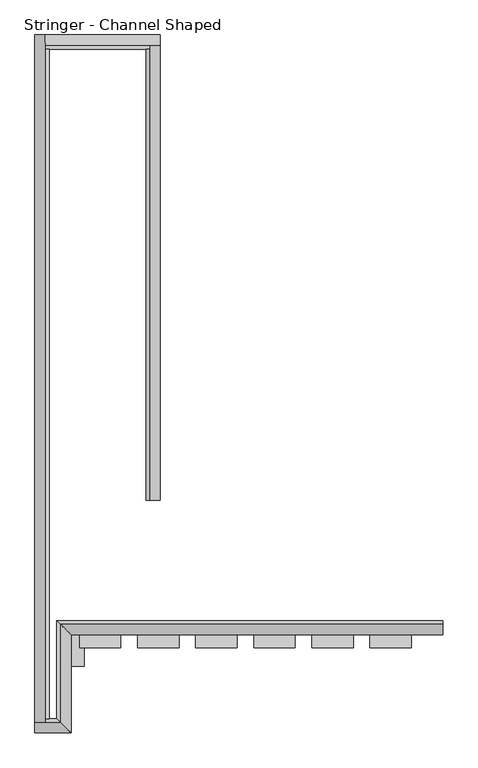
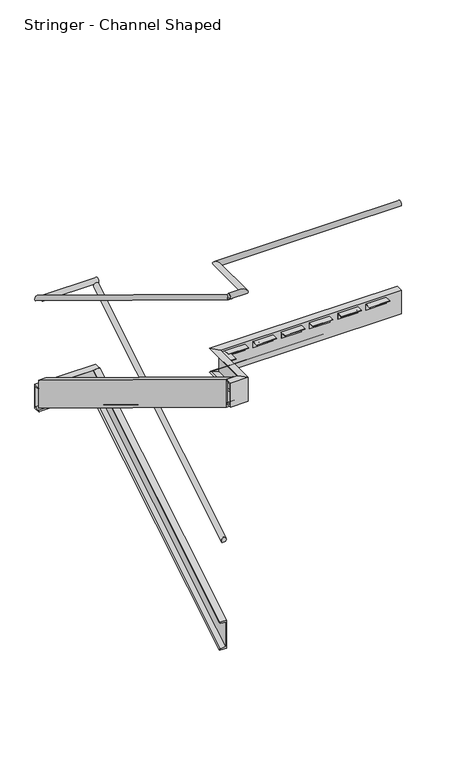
"""IFC4 building model written with IfcOpenShell, lengths in millimetres: railing geometry, Stringer - Channel Shaped."""

from ifc_helpers import new_model, si_unit, frame, origin, place, context, project, spatial, polyline, circle_curve, ellipse_curve, outline, extrude, source, transform, mapped, element, save
from ifc_brep_helpers import plane_surface, cylinder_surface, advanced_brep


def stringer_channel_shaped_25d5b561(model_context):
    return source(origin(), model_context, "Body", "SolidModel", [
        advanced_brep(
        [(-34606.7311, -2707.6103492, 1036.3824615), (-34640.073347, -2707.6103492, 1036.3824615), (-34606.7311, -472.4103492, 2398.7900805), (-34640.073347, -472.4103492, 2398.7900805)],
        [
            (0, 1, ellipse_curve(frame((-34623.4022235, -2707.6103492, 1058.8250107), z_axis=(0.0, -1.0, 0.0), x_axis=(0.0, 0.0, -1.0)), 29.7464179, 25.4)),
            (1, 0),
            (2, 3),
            (3, 2, ellipse_curve(frame((-34623.4022235, -472.4103492, 2421.2326298), z_axis=(0.0, 1.0, 0.0), x_axis=(0.0, 0.0, -1.0)), 29.7464179, 25.4)),
            (0, 2),
            (3, 1),
        ],
        [
            plane_surface(frame((-34623.4022235, -2707.6103492, 1088.5714286), z_axis=(0.0, -1.0, 0.0), x_axis=(0.0, 0.0, 1.0))),
            plane_surface(frame((-34623.4022235, -472.4103492, 2450.9790476), z_axis=(0.0, 1.0, 0.0), x_axis=(0.0, 0.0, 1.0))),
            cylinder_surface(frame((-34623.4022235, -2694.3905934, 1066.8827667), z_axis=(0.0, -0.8538843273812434, -0.5204628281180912), x_axis=(-1.0, 0.0, 0.0)), 25.4),
            plane_surface(frame((-34640.073347, -2707.6103492, 1036.3824615), z_axis=(0.0, 0.5204628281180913, -0.8538843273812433), x_axis=(0.0, 0.8538843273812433, 0.5204628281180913))),
        ],
        [
            (0, [[1, 2]]),
            (1, [[3, 4]]),
            (2, [[-1, 5, -4, 6]]),
            (3, [[-2, -6, -3, -5]]),
        ],
    ),
        advanced_brep(
        [(-34598.0022235, -430.3392257, 2437.3795161), (-34598.0022235, -463.6814727, 2437.3795161), (-35163.578433, -430.3392257, 2437.3795161), (-35163.578433, -463.6814727, 2437.3795161)],
        [
            (0, 1, circle_curve(frame((-34598.0022235, -447.0103492, 2456.5428571), z_axis=(1.0, 0.0, 0.0), x_axis=(0.0, -1.0, 0.0)), 25.4)),
            (1, 0),
            (2, 3),
            (3, 2, circle_curve(frame((-35163.578433, -447.0103492, 2456.5428571), z_axis=(-1.0, 0.0, 0.0), x_axis=(0.0, -1.0, 0.0)), 25.4)),
            (0, 2),
            (3, 1),
        ],
        [
            plane_surface(frame((-34598.0022235, -447.0103492, 2481.9428571), z_axis=(1.0, 0.0, 0.0), x_axis=(0.0, -1.0, 0.0))),
            plane_surface(frame((-35163.578433, -447.0103492, 2481.9428571), z_axis=(-1.0, 0.0, 0.0), x_axis=(0.0, -1.0, 0.0))),
            cylinder_surface(frame((-34598.0022235, -447.0103492, 2456.5428571), z_axis=(1.0, 0.0, 0.0), x_axis=(0.0, -1.0, 0.0)), 25.4),
            plane_surface(frame((-34598.0022235, -463.6814727, 2437.3795161), z_axis=(0.0, 0.0, -1.0), x_axis=(-1.0, 0.0, 0.0))),
        ],
        [
            (0, [[1, 2]]),
            (1, [[3, 4]]),
            (2, [[-1, 5, -4, 6]]),
            (3, [[-2, -6, -3, -5]]),
        ],
    ),
        advanced_brep(
        [(-35205.6495565, -421.6103492, 2429.75389), (-35172.3073095, -421.6103492, 2429.75389), (-35205.6495565, -3799.8103492, 4488.8472234), (-35172.3073095, -3799.8103492, 4488.8472234)],
        [
            (0, 1, ellipse_curve(frame((-35188.978433, -421.6103492, 2452.1964393), z_axis=(0.0, 1.0, 0.0), x_axis=(0.0, 0.0, -1.0)), 29.7464179, 25.4)),
            (1, 0),
            (2, 3),
            (3, 2, ellipse_curve(frame((-35188.978433, -3799.8103492, 4511.2897726), z_axis=(0.0, -1.0, 0.0), x_axis=(0.0, 0.0, -1.0)), 29.7464179, 25.4)),
            (0, 2),
            (3, 1),
        ],
        [
            plane_surface(frame((-35188.978433, -421.6103492, 2481.9428571), z_axis=(0.0, 1.0, 0.0), x_axis=(0.0, 0.0, -1.0))),
            plane_surface(frame((-35188.978433, -3799.8103492, 4541.0361905), z_axis=(0.0, -1.0, 0.0), x_axis=(0.0, 0.0, -1.0))),
            cylinder_surface(frame((-35188.978433, -434.830105, 2460.2541952), z_axis=(0.0, 0.8538843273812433, -0.5204628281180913), x_axis=(1.0, 0.0, 0.0)), 25.4),
            plane_surface(frame((-35172.3073095, -421.6103492, 2429.75389), z_axis=(0.0, -0.5204628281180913, -0.8538843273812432), x_axis=(0.0, -0.8538843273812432, 0.5204628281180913))),
        ],
        [
            (0, [[1, 2]]),
            (1, [[3, 4]]),
            (2, [[-1, 5, -4, 6]]),
            (3, [[-2, -6, -3, -5]]),
        ],
    ),
        advanced_brep(
        [(-34598.0022235, -2707.6103492, 192.2356071), (-34667.5054435, -2707.6103492, 192.2356071), (-34656.5238235, -2707.6103492, 180.1670516), (-34607.5475223, -2707.6103492, 170.9289313), (-34607.5475223, -2707.6103492, -83.0210129), (-34656.5238235, -2707.6103492, -92.2591332), (-34667.6566515, -2707.6103492, -105.2285714), (-34598.0022235, -2707.6103492, -105.2285714), (-34598.0022235, -491.2647772, 1543.1510034), (-34598.0022235, -491.2647772, 1245.6868248), (-34667.6566515, -491.2647772, 1245.6868248), (-34656.5238235, -491.2647772, 1258.656263), (-34607.5475223, -491.2647772, 1267.8943833), (-34607.5475223, -491.2647772, 1521.8443276), (-34656.5238235, -491.2647772, 1531.0824479), (-34667.5054435, -491.2647772, 1543.1510034)],
        [
            (0, 1),
            (1, 2, ellipse_curve(frame((-34654.3842898, -2707.6103492, 195.7239643), z_axis=(0.0, -1.0, 0.0), x_axis=(0.0, 0.0, -1.0)), 15.7574047, 13.4550009)),
            (2, 3),
            (3, 4),
            (4, 5),
            (5, 6, ellipse_curve(frame((-34654.3842898, -2707.6103492, -107.8160459), z_axis=(0.0, -1.0, 0.0), x_axis=(0.0, 0.0, -1.0)), 15.7574047, 13.4550009)),
            (6, 7),
            (7, 0),
            (8, 9),
            (9, 10),
            (10, 11, ellipse_curve(frame((-34654.3842898, -491.2647772, 1243.0993504), z_axis=(0.0, 1.0, 0.0), x_axis=(0.0, 0.0, -1.0)), 15.7574047, 13.4550009)),
            (11, 12),
            (12, 13),
            (13, 14),
            (14, 15, ellipse_curve(frame((-34654.3842898, -491.2647772, 1546.6393605), z_axis=(0.0, 1.0, 0.0), x_axis=(0.0, 0.0, -1.0)), 15.7574047, 13.4550009)),
            (15, 8),
            (0, 8),
            (15, 1),
            (14, 2),
            (13, 3),
            (12, 4),
            (11, 5),
            (10, 6),
            (9, 7),
        ],
        [
            plane_surface(frame((-34598.0022235, -2707.6103492, -105.2285714), z_axis=(0.0, -1.0, 0.0), x_axis=(0.0, 0.0, 1.0))),
            plane_surface(frame((-34598.0022235, -491.2647772, 1245.6868248), z_axis=(0.0, 1.0, 0.0), x_axis=(0.0, 0.0, 1.0))),
            plane_surface(frame((-34598.0022235, -2707.6103492, 192.2356071), z_axis=(0.0, -0.5204628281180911, 0.8538843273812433), x_axis=(0.0, 0.8538843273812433, 0.5204628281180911))),
            cylinder_surface(frame((-34654.3842898, -2841.358186, 114.2014733), z_axis=(0.0, -0.8538843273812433, -0.5204628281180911), x_axis=(-1.0, 0.0, 0.0)), 13.4550009),
            plane_surface(frame((-34656.5238235, -2707.6103492, 180.1670516), z_axis=(-0.15901401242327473, 0.5138406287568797, -0.8430197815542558), x_axis=(0.0, 0.8538843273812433, 0.5204628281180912))),
            plane_surface(frame((-34607.5475223, -2707.6103492, 170.9289313), z_axis=(-1.0, 0.0, 0.0), x_axis=(0.0, 0.8538843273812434, 0.5204628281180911))),
            plane_surface(frame((-34607.5475223, -2707.6103492, -83.0210129), z_axis=(-0.15901401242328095, -0.5138406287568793, 0.8430197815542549), x_axis=(0.0, 0.8538843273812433, 0.5204628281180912))),
            cylinder_surface(frame((-34654.3842898, -2706.4604366, -107.1151468), z_axis=(0.0, -0.8538843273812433, -0.5204628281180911), x_axis=(-1.0, 0.0, 0.0)), 13.4550009),
            plane_surface(frame((-34667.6566515, -2707.6103492, -105.2285714), z_axis=(0.0, 0.5204628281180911, -0.8538843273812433), x_axis=(0.0, 0.8538843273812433, 0.5204628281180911))),
            plane_surface(frame((-34598.0022235, -2707.6103492, -105.2285714), z_axis=(1.0, 0.0, 0.0), x_axis=(0.0, 0.8538843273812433, 0.5204628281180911))),
        ],
        [
            (0, [[1, 2, 3, 4, 5, 6, 7, 8]]),
            (1, [[9, 10, 11, 12, 13, 14, 15, 16]]),
            (2, [[-1, 17, -16, 18]]),
            (3, [[-2, -18, -15, 19]]),
            (4, [[-3, -19, -14, 20]]),
            (5, [[-4, -20, -13, 21]]),
            (6, [[-5, -21, -12, 22]]),
            (7, [[-6, -22, -11, 23]]),
            (8, [[-7, -23, -10, 24]]),
            (9, [[-8, -24, -9, -17]]),
        ],
    ),
        advanced_brep(
        [(-34598.0022235, -421.6103492, 1542.1428571), (-34598.0022235, -491.1135692, 1542.1428571), (-34598.0022235, -480.1319492, 1531.8377068), (-34598.0022235, -431.155648, 1523.9494206), (-34598.0022235, -431.155648, 1307.1055433), (-34598.0022235, -480.1319492, 1299.2172571), (-34598.0022235, -491.2647772, 1288.1428571), (-34598.0022235, -421.6103492, 1288.1428571), (-35214.378433, -421.6103492, 1542.1428571), (-35214.378433, -421.6103492, 1288.1428571), (-35214.378433, -491.2647772, 1288.1428571), (-35214.378433, -480.1319492, 1299.2172571), (-35214.378433, -431.155648, 1307.1055433), (-35214.378433, -431.155648, 1523.9494206), (-35214.378433, -480.1319492, 1531.8377068), (-35214.378433, -491.1135692, 1542.1428571)],
        [
            (0, 1),
            (1, 2, circle_curve(frame((-34598.0022235, -477.9924155, 1545.1215107), z_axis=(1.0, 0.0, 0.0), x_axis=(0.0, -1.0, 0.0)), 13.4550009)),
            (2, 3),
            (3, 4),
            (4, 5),
            (5, 6, circle_curve(frame((-34598.0022235, -477.9924155, 1285.9334533), z_axis=(1.0, 0.0, 0.0), x_axis=(0.0, -1.0, 0.0)), 13.4550009)),
            (6, 7),
            (7, 0),
            (8, 9),
            (9, 10),
            (10, 11, circle_curve(frame((-35214.378433, -477.9924155, 1285.9334533), z_axis=(-1.0, 0.0, 0.0), x_axis=(0.0, -1.0, 0.0)), 13.4550009)),
            (11, 12),
            (12, 13),
            (13, 14),
            (14, 15, circle_curve(frame((-35214.378433, -477.9924155, 1545.1215107), z_axis=(-1.0, 0.0, 0.0), x_axis=(0.0, -1.0, 0.0)), 13.4550009)),
            (15, 8),
            (0, 8),
            (15, 1),
            (14, 2),
            (13, 3),
            (12, 4),
            (11, 5),
            (10, 6),
            (9, 7),
        ],
        [
            plane_surface(frame((-34598.0022235, -421.6103492, 1288.1428571), z_axis=(1.0, 0.0, 0.0), x_axis=(0.0, -1.0, 0.0))),
            plane_surface(frame((-35214.378433, -421.6103492, 1288.1428571), z_axis=(-1.0, 0.0, 0.0), x_axis=(0.0, -1.0, 0.0))),
            plane_surface(frame((-34598.0022235, -421.6103492, 1542.1428571), z_axis=(0.0, 0.0, 1.0), x_axis=(-1.0, 0.0, 0.0))),
            cylinder_surface(frame((-34598.0022235, -477.9924155, 1545.1215107), z_axis=(1.0, 0.0, 0.0), x_axis=(0.0, -1.0, 0.0)), 13.4550009),
            plane_surface(frame((-34598.0022235, -480.1319492, 1531.8377068), z_axis=(0.0, -0.15901401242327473, -0.9872763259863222), x_axis=(-1.0, 0.0, 0.0))),
            plane_surface(frame((-34598.0022235, -431.155648, 1523.9494206), z_axis=(0.0, -1.0, 0.0), x_axis=(-1.0, 0.0, 0.0))),
            plane_surface(frame((-34598.0022235, -431.155648, 1307.1055433), z_axis=(0.0, -0.15901401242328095, 0.9872763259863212), x_axis=(-1.0, 0.0, 0.0))),
            cylinder_surface(frame((-34598.0022235, -477.9924155, 1285.9334533), z_axis=(1.0, 0.0, 0.0), x_axis=(0.0, -1.0, 0.0)), 13.4550009),
            plane_surface(frame((-34598.0022235, -491.2647772, 1288.1428571), z_axis=(0.0, 0.0, -1.0), x_axis=(-1.0, 0.0, 0.0))),
            plane_surface(frame((-34598.0022235, -421.6103492, 1288.1428571), z_axis=(0.0, 1.0, 0.0), x_axis=(-1.0, 0.0, 0.0))),
        ],
        [
            (0, [[1, 2, 3, 4, 5, 6, 7, 8]]),
            (1, [[9, 10, 11, 12, 13, 14, 15, 16]]),
            (2, [[-1, 17, -16, 18]]),
            (3, [[-2, -18, -15, 19]]),
            (4, [[-3, -19, -14, 20]]),
            (5, [[-4, -20, -13, 21]]),
            (6, [[-5, -21, -12, 22]]),
            (7, [[-6, -22, -11, 23]]),
            (8, [[-7, -23, -10, 24]]),
            (9, [[-8, -24, -9, -17]]),
        ],
    ),
        advanced_brep(
        [(-35214.378433, -491.2647772, 1628.063068), (-35144.8752131, -491.2647772, 1628.063068), (-35155.856833, -491.2647772, 1615.9945125), (-35204.8331342, -491.2647772, 1606.7563922), (-35204.8331342, -491.2647772, 1352.8064479), (-35155.856833, -491.2647772, 1343.5683276), (-35144.724005, -491.2647772, 1330.5988894), (-35214.378433, -491.2647772, 1330.5988894), (-35214.378433, -3780.9559212, 3633.2081462), (-35214.378433, -3780.9559212, 3335.7439677), (-35144.724005, -3780.9559212, 3335.7439677), (-35155.856833, -3780.9559212, 3348.7134059), (-35204.8331342, -3780.9559212, 3357.9515262), (-35204.8331342, -3780.9559212, 3611.9014705), (-35155.856833, -3780.9559212, 3621.1395908), (-35144.8752131, -3780.9559212, 3633.2081462)],
        [
            (0, 1),
            (1, 2, ellipse_curve(frame((-35157.9963667, -491.2647772, 1631.5514251), z_axis=(0.0, 1.0, 0.0), x_axis=(0.0, 0.0, -1.0)), 15.7574047, 13.4550009)),
            (2, 3),
            (3, 4),
            (4, 5),
            (5, 6, ellipse_curve(frame((-35157.9963667, -491.2647772, 1328.011415), z_axis=(0.0, 1.0, 0.0), x_axis=(0.0, 0.0, -1.0)), 15.7574047, 13.4550009)),
            (6, 7),
            (7, 0),
            (8, 9),
            (9, 10),
            (10, 11, ellipse_curve(frame((-35157.9963667, -3780.9559212, 3333.1564933), z_axis=(0.0, -1.0, 0.0), x_axis=(0.0, 0.0, -1.0)), 15.7574047, 13.4550009)),
            (11, 12),
            (12, 13),
            (13, 14),
            (14, 15, ellipse_curve(frame((-35157.9963667, -3780.9559212, 3636.6965034), z_axis=(0.0, -1.0, 0.0), x_axis=(0.0, 0.0, -1.0)), 15.7574047, 13.4550009)),
            (15, 8),
            (0, 8),
            (15, 1),
            (14, 2),
            (13, 3),
            (12, 4),
            (11, 5),
            (10, 6),
            (9, 7),
        ],
        [
            plane_surface(frame((-35214.378433, -491.2647772, 1330.5988894), z_axis=(0.0, 1.0, 0.0), x_axis=(0.0, 0.0, -1.0))),
            plane_surface(frame((-35214.378433, -3780.9559212, 3335.7439677), z_axis=(0.0, -1.0, 0.0), x_axis=(0.0, 0.0, -1.0))),
            plane_surface(frame((-35214.378433, -491.2647772, 1628.063068), z_axis=(0.0, 0.5204628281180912, 0.8538843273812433), x_axis=(0.0, -0.8538843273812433, 0.5204628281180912))),
            cylinder_surface(frame((-35157.9963667, -357.5169404, 1550.0289342), z_axis=(0.0, 0.8538843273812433, -0.5204628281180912), x_axis=(1.0, 0.0, 0.0)), 13.4550009),
            plane_surface(frame((-35155.856833, -491.2647772, 1615.9945125), z_axis=(0.15901401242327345, -0.5138406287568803, -0.8430197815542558), x_axis=(0.0, -0.8538843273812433, 0.5204628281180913))),
            plane_surface(frame((-35204.8331342, -491.2647772, 1606.7563922), z_axis=(1.0, 0.0, 0.0), x_axis=(0.0, -0.8538843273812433, 0.5204628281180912))),
            plane_surface(frame((-35204.8331342, -491.2647772, 1352.8064479), z_axis=(0.15901401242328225, 0.5138406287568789, 0.843019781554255), x_axis=(0.0, -0.8538843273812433, 0.5204628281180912))),
            cylinder_surface(frame((-35157.9963667, -492.4146898, 1328.7123141), z_axis=(0.0, 0.8538843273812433, -0.5204628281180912), x_axis=(1.0, 0.0, 0.0)), 13.4550009),
            plane_surface(frame((-35144.724005, -491.2647772, 1330.5988894), z_axis=(0.0, -0.5204628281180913, -0.8538843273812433), x_axis=(0.0, -0.8538843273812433, 0.5204628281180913))),
            plane_surface(frame((-35214.378433, -491.2647772, 1330.5988894), z_axis=(-1.0, 0.0, 0.0), x_axis=(0.0, -0.8538843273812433, 0.5204628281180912))),
        ],
        [
            (0, [[1, 2, 3, 4, 5, 6, 7, 8]]),
            (1, [[9, 10, 11, 12, 13, 14, 15, 16]]),
            (2, [[-1, 17, -16, 18]]),
            (3, [[-2, -18, -15, 19]]),
            (4, [[-3, -19, -14, 20]]),
            (5, [[-4, -20, -13, 21]]),
            (6, [[-5, -21, -12, 22]]),
            (7, [[-6, -22, -11, 23]]),
            (8, [[-7, -23, -10, 24]]),
            (9, [[-8, -24, -9, -17]]),
        ],
    ),
        advanced_brep(
        [(-35214.378433, -3841.8814727, 4527.4366589), (-35214.378433, -3808.5392257, 4527.4366589), (-35045.3073095, -3841.8814727, 4527.4366589), (-35078.6495565, -3808.5392257, 4527.4366589), (-35045.3073095, -3359.2814727, 4527.4366589), (-35078.6495565, -3325.9392257, 4527.4366589), (-33207.4142212, -3359.2814727, 4527.4366589), (-33207.4142212, -3325.9392257, 4527.4366589)],
        [
            (0, 1, circle_curve(frame((-35214.378433, -3825.2103492, 4546.6), z_axis=(-1.0, 0.0, 0.0), x_axis=(0.0, 1.0, 0.0)), 25.4)),
            (1, 0),
            (0, 2),
            (2, 3, ellipse_curve(frame((-35061.978433, -3825.2103492, 4546.6), z_axis=(-0.7071067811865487, -0.7071067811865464, 0.0), x_axis=(-0.7071067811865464, 0.7071067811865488, 0.0)), 35.9210245, 25.4)),
            (3, 1),
            (3, 2),
            (2, 4),
            (4, 5, ellipse_curve(frame((-35061.978433, -3342.6103492, 4546.6), z_axis=(-0.7071067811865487, -0.7071067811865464, 0.0), x_axis=(0.7071067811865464, -0.7071067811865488, 0.0)), 35.9210245, 25.4)),
            (5, 3),
            (5, 4),
            (6, 7),
            (7, 6, circle_curve(frame((-33207.4142212, -3342.6103492, 4546.6), z_axis=(1.0, 0.0, 0.0), x_axis=(0.0, 1.0, 0.0)), 25.4)),
            (4, 6),
            (7, 5),
        ],
        [
            plane_surface(frame((-35214.378433, -3825.2103492, 4572.0), z_axis=(-1.0, 0.0, 0.0), x_axis=(0.0, 1.0, 0.0))),
            cylinder_surface(frame((-35214.378433, -3825.2103492, 4546.6), z_axis=(-1.0, 0.0, 0.0), x_axis=(0.0, 1.0, 0.0)), 25.4),
            plane_surface(frame((-35214.378433, -3808.5392257, 4527.4366589), z_axis=(0.0, 0.0, -1.0), x_axis=(1.0, 0.0, 0.0))),
            cylinder_surface(frame((-35061.978433, -3825.2103492, 4546.6), z_axis=(0.0, -1.0, 0.0), x_axis=(-1.0, 0.0, 0.0)), 25.4),
            plane_surface(frame((-35078.6495565, -3808.5392257, 4527.4366589), z_axis=(0.0, 0.0, -1.0), x_axis=(0.0, 1.0, 0.0))),
            plane_surface(frame((-33207.4142212, -3342.6103492, 4572.0), z_axis=(1.0, 0.0, 0.0), x_axis=(0.0, 1.0, 0.0))),
            cylinder_surface(frame((-35061.978433, -3342.6103492, 4546.6), z_axis=(-1.0, 0.0, 0.0), x_axis=(0.0, 1.0, 0.0)), 25.4),
            plane_surface(frame((-35078.6495565, -3325.9392257, 4527.4366589), z_axis=(0.0, 0.0, -1.0), x_axis=(1.0, 0.0, 0.0))),
        ],
        [
            (0, [[1, 2]]),
            (1, [[-1, 3, 4, 5]]),
            (2, [[-2, -5, 6, -3]]),
            (3, [[-4, 7, 8, 9]]),
            (4, [[-6, -9, 10, -7]]),
            (5, [[11, 12]]),
            (6, [[-8, 13, -12, 14]]),
            (7, [[-10, -14, -11, -13]]),
        ],
    ),
        advanced_brep(
        [(-35214.378433, -3850.6103492, 3632.2), (-35214.378433, -3781.1071292, 3632.2), (-35214.378433, -3792.0887492, 3621.8948496), (-35214.378433, -3841.0650504, 3614.0065635), (-35214.378433, -3841.0650504, 3397.1626861), (-35214.378433, -3792.0887492, 3389.2744), (-35214.378433, -3780.9559212, 3378.2), (-35214.378433, -3850.6103492, 3378.2), (-35036.578433, -3850.6103492, 3632.2), (-35106.081653, -3781.1071292, 3632.2), (-35095.100033, -3792.0887492, 3621.8948496), (-35046.1237319, -3841.0650504, 3614.0065635), (-35046.1237319, -3841.0650504, 3397.1626861), (-35095.100033, -3792.0887492, 3389.2744), (-35106.232861, -3780.9559212, 3378.2), (-35036.578433, -3850.6103492, 3378.2), (-35036.578433, -3368.0103492, 3632.2), (-35106.081653, -3298.5071292, 3632.2), (-35095.100033, -3309.4887492, 3621.8948496), (-35046.1237319, -3358.4650504, 3614.0065635), (-35046.1237319, -3358.4650504, 3397.1626861), (-35095.100033, -3309.4887492, 3389.2744), (-35106.232861, -3298.3559212, 3378.2), (-35036.578433, -3368.0103492, 3378.2), (-33207.4142212, -3368.0103492, 3632.2), (-33207.4142212, -3368.0103492, 3378.2), (-33207.4142212, -3298.3559212, 3378.2), (-33207.4142212, -3309.4887492, 3389.2744), (-33207.4142212, -3358.4650504, 3397.1626861), (-33207.4142212, -3358.4650504, 3614.0065635), (-33207.4142212, -3309.4887492, 3621.8948496), (-33207.4142212, -3298.5071292, 3632.2)],
        [
            (0, 1),
            (1, 2, circle_curve(frame((-35214.378433, -3794.2282829, 3635.1786535), z_axis=(-1.0, 0.0, 0.0), x_axis=(0.0, 1.0, 0.0)), 13.4550009)),
            (2, 3),
            (3, 4),
            (4, 5),
            (5, 6, circle_curve(frame((-35214.378433, -3794.2282829, 3375.9905961), z_axis=(-1.0, 0.0, 0.0), x_axis=(0.0, 1.0, 0.0)), 13.4550009)),
            (6, 7),
            (7, 0),
            (0, 8),
            (8, 9),
            (9, 1),
            (9, 10, ellipse_curve(frame((-35092.9604993, -3794.2282829, 3635.1786535), z_axis=(-0.7071067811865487, -0.7071067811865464, 0.0), x_axis=(-0.7071067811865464, 0.7071067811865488, 0.0)), 19.0282448, 13.4550009)),
            (10, 2),
            (10, 11),
            (11, 3),
            (11, 12),
            (12, 4),
            (12, 13),
            (13, 5),
            (13, 14, ellipse_curve(frame((-35092.9604993, -3794.2282829, 3375.9905961), z_axis=(-0.7071067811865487, -0.7071067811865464, 0.0), x_axis=(-0.7071067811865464, 0.7071067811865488, 0.0)), 19.0282448, 13.4550009)),
            (14, 6),
            (14, 15),
            (15, 7),
            (15, 8),
            (8, 16),
            (16, 17),
            (17, 9),
            (17, 18, ellipse_curve(frame((-35092.9604993, -3311.6282829, 3635.1786535), z_axis=(-0.7071067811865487, -0.7071067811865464, 0.0), x_axis=(0.7071067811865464, -0.7071067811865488, 0.0)), 19.0282448, 13.4550009)),
            (18, 10),
            (18, 19),
            (19, 11),
            (19, 20),
            (20, 12),
            (20, 21),
            (21, 13),
            (21, 22, ellipse_curve(frame((-35092.9604993, -3311.6282829, 3375.9905961), z_axis=(-0.7071067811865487, -0.7071067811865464, 0.0), x_axis=(0.7071067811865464, -0.7071067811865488, 0.0)), 19.0282448, 13.4550009)),
            (22, 14),
            (22, 23),
            (23, 15),
            (23, 16),
            (24, 25),
            (25, 26),
            (26, 27, circle_curve(frame((-33207.4142212, -3311.6282829, 3375.9905961), z_axis=(1.0, 0.0, 0.0), x_axis=(0.0, 1.0, 0.0)), 13.4550009)),
            (27, 28),
            (28, 29),
            (29, 30),
            (30, 31, circle_curve(frame((-33207.4142212, -3311.6282829, 3635.1786535), z_axis=(1.0, 0.0, 0.0), x_axis=(0.0, 1.0, 0.0)), 13.4550009)),
            (31, 24),
            (16, 24),
            (31, 17),
            (30, 18),
            (29, 19),
            (28, 20),
            (27, 21),
            (26, 22),
            (25, 23),
        ],
        [
            plane_surface(frame((-35214.378433, -3850.6103492, 3378.2), z_axis=(-1.0, 0.0, 0.0), x_axis=(0.0, 1.0, 0.0))),
            plane_surface(frame((-35214.378433, -3850.6103492, 3632.2), z_axis=(0.0, 0.0, 1.0), x_axis=(1.0, 0.0, 0.0))),
            cylinder_surface(frame((-35214.378433, -3794.2282829, 3635.1786535), z_axis=(-1.0, 0.0, 0.0), x_axis=(0.0, 1.0, 0.0)), 13.4550009),
            plane_surface(frame((-35214.378433, -3792.0887492, 3621.8948496), z_axis=(0.0, 0.15901401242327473, -0.9872763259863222), x_axis=(1.0, 0.0, 0.0))),
            plane_surface(frame((-35214.378433, -3841.0650504, 3614.0065635), z_axis=(0.0, 1.0, 0.0), x_axis=(1.0, 0.0, 0.0))),
            plane_surface(frame((-35214.378433, -3841.0650504, 3397.1626861), z_axis=(0.0, 0.15901401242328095, 0.9872763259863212), x_axis=(1.0, 0.0, 0.0))),
            cylinder_surface(frame((-35214.378433, -3794.2282829, 3375.9905961), z_axis=(-1.0, 0.0, 0.0), x_axis=(0.0, 1.0, 0.0)), 13.4550009),
            plane_surface(frame((-35214.378433, -3780.9559212, 3378.2), z_axis=(0.0, 0.0, -1.0), x_axis=(1.0, 0.0, 0.0))),
            plane_surface(frame((-35214.378433, -3850.6103492, 3378.2), z_axis=(0.0, -1.0, 0.0), x_axis=(1.0, 0.0, 0.0))),
            plane_surface(frame((-35036.578433, -3850.6103492, 3632.2), z_axis=(0.0, 0.0, 1.0), x_axis=(0.0, 1.0, 0.0))),
            cylinder_surface(frame((-35092.9604993, -3850.6103492, 3635.1786535), z_axis=(0.0, -1.0, 0.0), x_axis=(-1.0, 0.0, 0.0)), 13.4550009),
            plane_surface(frame((-35095.100033, -3792.0887492, 3621.8948496), z_axis=(-0.15901401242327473, 0.0, -0.9872763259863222), x_axis=(0.0, 1.0, 0.0))),
            plane_surface(frame((-35046.1237319, -3841.0650504, 3614.0065635), z_axis=(-1.0, 0.0, 0.0), x_axis=(0.0, 1.0, 0.0))),
            plane_surface(frame((-35046.1237319, -3841.0650504, 3397.1626861), z_axis=(-0.15901401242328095, 0.0, 0.9872763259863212), x_axis=(0.0, 1.0, 0.0))),
            cylinder_surface(frame((-35092.9604993, -3850.6103492, 3375.9905961), z_axis=(0.0, -1.0, 0.0), x_axis=(-1.0, 0.0, 0.0)), 13.4550009),
            plane_surface(frame((-35106.232861, -3780.9559212, 3378.2), z_axis=(0.0, 0.0, -1.0), x_axis=(0.0, 1.0, 0.0))),
            plane_surface(frame((-35036.578433, -3850.6103492, 3378.2), z_axis=(1.0, 0.0, 0.0), x_axis=(0.0, 1.0, 0.0))),
            plane_surface(frame((-33207.4142212, -3368.0103492, 3378.2), z_axis=(1.0, 0.0, 0.0), x_axis=(0.0, 1.0, 0.0))),
            plane_surface(frame((-35036.578433, -3368.0103492, 3632.2), z_axis=(0.0, 0.0, 1.0), x_axis=(1.0, 0.0, 0.0))),
            cylinder_surface(frame((-35036.578433, -3311.6282829, 3635.1786535), z_axis=(-1.0, 0.0, 0.0), x_axis=(0.0, 1.0, 0.0)), 13.4550009),
            plane_surface(frame((-35095.100033, -3309.4887492, 3621.8948496), z_axis=(0.0, 0.15901401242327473, -0.9872763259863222), x_axis=(1.0, 0.0, 0.0))),
            plane_surface(frame((-35046.1237319, -3358.4650504, 3614.0065635), z_axis=(0.0, 1.0, 0.0), x_axis=(1.0, 0.0, 0.0))),
            plane_surface(frame((-35046.1237319, -3358.4650504, 3397.1626861), z_axis=(0.0, 0.15901401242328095, 0.9872763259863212), x_axis=(1.0, 0.0, 0.0))),
            cylinder_surface(frame((-35036.578433, -3311.6282829, 3375.9905961), z_axis=(-1.0, 0.0, 0.0), x_axis=(0.0, 1.0, 0.0)), 13.4550009),
            plane_surface(frame((-35106.232861, -3298.3559212, 3378.2), z_axis=(0.0, 0.0, -1.0), x_axis=(1.0, 0.0, 0.0))),
            plane_surface(frame((-35036.578433, -3368.0103492, 3378.2), z_axis=(0.0, -1.0, 0.0), x_axis=(1.0, 0.0, 0.0))),
        ],
        [
            (0, [[1, 2, 3, 4, 5, 6, 7, 8]]),
            (1, [[-1, 9, 10, 11]]),
            (2, [[-2, -11, 12, 13]]),
            (3, [[-3, -13, 14, 15]]),
            (4, [[-4, -15, 16, 17]]),
            (5, [[-5, -17, 18, 19]]),
            (6, [[-6, -19, 20, 21]]),
            (7, [[-7, -21, 22, 23]]),
            (8, [[-8, -23, 24, -9]]),
            (9, [[-10, 25, 26, 27]]),
            (10, [[-12, -27, 28, 29]]),
            (11, [[-14, -29, 30, 31]]),
            (12, [[-16, -31, 32, 33]]),
            (13, [[-18, -33, 34, 35]]),
            (14, [[-20, -35, 36, 37]]),
            (15, [[-22, -37, 38, 39]]),
            (16, [[-24, -39, 40, -25]]),
            (17, [[41, 42, 43, 44, 45, 46, 47, 48]]),
            (18, [[-26, 49, -48, 50]]),
            (19, [[-28, -50, -47, 51]]),
            (20, [[-30, -51, -46, 52]]),
            (21, [[-32, -52, -45, 53]]),
            (22, [[-34, -53, -44, 54]]),
            (23, [[-36, -54, -43, 55]]),
            (24, [[-38, -55, -42, 56]]),
            (25, [[-40, -56, -41, -49]]),
        ],
    ),
        extrude(outline(polyline([(-3371.1853492, 3546.475), (-3371.1853492, 3606.8), (-3431.5103492, 3606.8), (-3431.5103492, 3609.975), (-3368.0103492, 3609.975), (-3368.0103492, 3546.475), (-3371.1853492, 3546.475)])), frame((-33566.553433, 0.0, 0.0), z_axis=(1.0, 0.0, 0.0), x_axis=(0.0, 1.0, 0.0)), (0.0, 0.0, 1.0), 203.2),
        extrude(outline(polyline([(3578.225, -33523.8049104), (3587.75, -33529.3041717), (3587.75, -33540.3026943), (3578.225, -33545.8019556), (3568.7, -33540.3026943), (3568.7, -33529.3041717), (3578.225, -33523.8049104)])), frame((0.0, -3358.4853492, 0.0), z_axis=(0.0, 1.0, 0.0), x_axis=(0.0, 0.0, 1.0)), (0.0, 0.0, 1.0), 9.525),
        extrude(outline(polyline([(3578.225, -33384.1049104), (3587.75, -33389.6041717), (3587.75, -33400.6026943), (3578.225, -33406.1019556), (3568.7, -33400.6026943), (3568.7, -33389.6041717), (3578.225, -33384.1049104)])), frame((0.0, -3358.4853492, 0.0), z_axis=(0.0, 1.0, 0.0), x_axis=(0.0, 0.0, 1.0)), (0.0, 0.0, 1.0), 9.525),
        extrude(outline(polyline([(3578.225, -33523.8049104), (3587.75, -33529.3041717), (3587.75, -33540.3026943), (3578.225, -33545.8019556), (3568.7, -33540.3026943), (3568.7, -33529.3041717), (3578.225, -33523.8049104)])), frame((0.0, -3380.7103492, 0.0), z_axis=(0.0, 1.0, 0.0), x_axis=(0.0, 0.0, 1.0)), (0.0, 0.0, 1.0), 9.525),
        extrude(outline(polyline([(3578.225, -33384.1049104), (3587.75, -33389.6041717), (3587.75, -33400.6026943), (3578.225, -33406.1019556), (3568.7, -33400.6026943), (3568.7, -33389.6041717), (3578.225, -33384.1049104)])), frame((0.0, -3380.7103492, 0.0), z_axis=(0.0, 1.0, 0.0), x_axis=(0.0, 0.0, 1.0)), (0.0, 0.0, 1.0), 9.525),
        extrude(outline(polyline([(-33534.803433, -3388.7618266), (-33525.278433, -3394.2610879), (-33525.278433, -3405.2596105), (-33534.803433, -3410.7588718), (-33544.328433, -3405.2596105), (-33544.328433, -3394.2610879), (-33534.803433, -3388.7618266)])), frame((0.0, 0.0, 3597.275), z_axis=(0.0, 0.0, 1.0), x_axis=(1.0, 0.0, 0.0)), (0.0, 0.0, 1.0), 9.525),
        extrude(outline(polyline([(-33395.103433, -3388.7618266), (-33385.578433, -3394.2610879), (-33385.578433, -3405.2596105), (-33395.103433, -3410.7588718), (-33404.628433, -3405.2596105), (-33404.628433, -3394.2610879), (-33395.103433, -3388.7618266)])), frame((0.0, 0.0, 3597.275), z_axis=(0.0, 0.0, 1.0), x_axis=(1.0, 0.0, 0.0)), (0.0, 0.0, 1.0), 9.525),
        extrude(outline(polyline([(-3371.1853492, 3546.475), (-3371.1853492, 3606.8), (-3431.5103492, 3606.8), (-3431.5103492, 3609.975), (-3368.0103492, 3609.975), (-3368.0103492, 3546.475), (-3371.1853492, 3546.475)])), frame((-33852.303433, 0.0, 0.0), z_axis=(1.0, 0.0, 0.0), x_axis=(0.0, 1.0, 0.0)), (0.0, 0.0, 1.0), 203.2),
        extrude(outline(polyline([(3578.225, -33809.5549104), (3587.75, -33815.0541717), (3587.75, -33826.0526943), (3578.225, -33831.5519556), (3568.7, -33826.0526943), (3568.7, -33815.0541717), (3578.225, -33809.5549104)])), frame((0.0, -3358.4853492, 0.0), z_axis=(0.0, 1.0, 0.0), x_axis=(0.0, 0.0, 1.0)), (0.0, 0.0, 1.0), 9.525),
        extrude(outline(polyline([(3578.225, -33669.8549104), (3587.75, -33675.3541717), (3587.75, -33686.3526943), (3578.225, -33691.8519556), (3568.7, -33686.3526943), (3568.7, -33675.3541717), (3578.225, -33669.8549104)])), frame((0.0, -3358.4853492, 0.0), z_axis=(0.0, 1.0, 0.0), x_axis=(0.0, 0.0, 1.0)), (0.0, 0.0, 1.0), 9.525),
        extrude(outline(polyline([(3578.225, -33809.5549104), (3587.75, -33815.0541717), (3587.75, -33826.0526943), (3578.225, -33831.5519556), (3568.7, -33826.0526943), (3568.7, -33815.0541717), (3578.225, -33809.5549104)])), frame((0.0, -3380.7103492, 0.0), z_axis=(0.0, 1.0, 0.0), x_axis=(0.0, 0.0, 1.0)), (0.0, 0.0, 1.0), 9.525),
        extrude(outline(polyline([(3578.225, -33669.8549104), (3587.75, -33675.3541717), (3587.75, -33686.3526943), (3578.225, -33691.8519556), (3568.7, -33686.3526943), (3568.7, -33675.3541717), (3578.225, -33669.8549104)])), frame((0.0, -3380.7103492, 0.0), z_axis=(0.0, 1.0, 0.0), x_axis=(0.0, 0.0, 1.0)), (0.0, 0.0, 1.0), 9.525),
        extrude(outline(polyline([(-33820.553433, -3388.7618266), (-33811.028433, -3394.2610879), (-33811.028433, -3405.2596105), (-33820.553433, -3410.7588718), (-33830.078433, -3405.2596105), (-33830.078433, -3394.2610879), (-33820.553433, -3388.7618266)])), frame((0.0, 0.0, 3597.275), z_axis=(0.0, 0.0, 1.0), x_axis=(1.0, 0.0, 0.0)), (0.0, 0.0, 1.0), 9.525),
        extrude(outline(polyline([(-33680.853433, -3388.7618266), (-33671.328433, -3394.2610879), (-33671.328433, -3405.2596105), (-33680.853433, -3410.7588718), (-33690.378433, -3405.2596105), (-33690.378433, -3394.2610879), (-33680.853433, -3388.7618266)])), frame((0.0, 0.0, 3597.275), z_axis=(0.0, 0.0, 1.0), x_axis=(1.0, 0.0, 0.0)), (0.0, 0.0, 1.0), 9.525),
        extrude(outline(polyline([(-3371.1853492, 3546.475), (-3371.1853492, 3606.8), (-3431.5103492, 3606.8), (-3431.5103492, 3609.975), (-3368.0103492, 3609.975), (-3368.0103492, 3546.475), (-3371.1853492, 3546.475)])), frame((-34138.053433, 0.0, 0.0), z_axis=(1.0, 0.0, 0.0), x_axis=(0.0, 1.0, 0.0)), (0.0, 0.0, 1.0), 203.2),
        extrude(outline(polyline([(3578.225, -34095.3049104), (3587.75, -34100.8041717), (3587.75, -34111.8026943), (3578.225, -34117.3019556), (3568.7, -34111.8026943), (3568.7, -34100.8041717), (3578.225, -34095.3049104)])), frame((0.0, -3358.4853492, 0.0), z_axis=(0.0, 1.0, 0.0), x_axis=(0.0, 0.0, 1.0)), (0.0, 0.0, 1.0), 9.525),
        extrude(outline(polyline([(3578.225, -33955.6049104), (3587.75, -33961.1041717), (3587.75, -33972.1026943), (3578.225, -33977.6019556), (3568.7, -33972.1026943), (3568.7, -33961.1041717), (3578.225, -33955.6049104)])), frame((0.0, -3358.4853492, 0.0), z_axis=(0.0, 1.0, 0.0), x_axis=(0.0, 0.0, 1.0)), (0.0, 0.0, 1.0), 9.525),
        extrude(outline(polyline([(3578.225, -34095.3049104), (3587.75, -34100.8041717), (3587.75, -34111.8026943), (3578.225, -34117.3019556), (3568.7, -34111.8026943), (3568.7, -34100.8041717), (3578.225, -34095.3049104)])), frame((0.0, -3380.7103492, 0.0), z_axis=(0.0, 1.0, 0.0), x_axis=(0.0, 0.0, 1.0)), (0.0, 0.0, 1.0), 9.525),
        extrude(outline(polyline([(3578.225, -33955.6049104), (3587.75, -33961.1041717), (3587.75, -33972.1026943), (3578.225, -33977.6019556), (3568.7, -33972.1026943), (3568.7, -33961.1041717), (3578.225, -33955.6049104)])), frame((0.0, -3380.7103492, 0.0), z_axis=(0.0, 1.0, 0.0), x_axis=(0.0, 0.0, 1.0)), (0.0, 0.0, 1.0), 9.525),
        extrude(outline(polyline([(-34106.303433, -3388.7618266), (-34096.778433, -3394.2610879), (-34096.778433, -3405.2596105), (-34106.303433, -3410.7588718), (-34115.828433, -3405.2596105), (-34115.828433, -3394.2610879), (-34106.303433, -3388.7618266)])), frame((0.0, 0.0, 3597.275), z_axis=(0.0, 0.0, 1.0), x_axis=(1.0, 0.0, 0.0)), (0.0, 0.0, 1.0), 9.525),
        extrude(outline(polyline([(-33966.603433, -3388.7618266), (-33957.078433, -3394.2610879), (-33957.078433, -3405.2596105), (-33966.603433, -3410.7588718), (-33976.128433, -3405.2596105), (-33976.128433, -3394.2610879), (-33966.603433, -3388.7618266)])), frame((0.0, 0.0, 3597.275), z_axis=(0.0, 0.0, 1.0), x_axis=(1.0, 0.0, 0.0)), (0.0, 0.0, 1.0), 9.525),
        extrude(outline(polyline([(-3371.1853492, 3546.475), (-3371.1853492, 3606.8), (-3431.5103492, 3606.8), (-3431.5103492, 3609.975), (-3368.0103492, 3609.975), (-3368.0103492, 3546.475), (-3371.1853492, 3546.475)])), frame((-34423.803433, 0.0, 0.0), z_axis=(1.0, 0.0, 0.0), x_axis=(0.0, 1.0, 0.0)), (0.0, 0.0, 1.0), 203.2),
        extrude(outline(polyline([(3578.225, -34381.0549104), (3587.75, -34386.5541717), (3587.75, -34397.5526943), (3578.225, -34403.0519556), (3568.7, -34397.5526943), (3568.7, -34386.5541717), (3578.225, -34381.0549104)])), frame((0.0, -3358.4853492, 0.0), z_axis=(0.0, 1.0, 0.0), x_axis=(0.0, 0.0, 1.0)), (0.0, 0.0, 1.0), 9.525),
        extrude(outline(polyline([(3578.225, -34241.3549104), (3587.75, -34246.8541717), (3587.75, -34257.8526943), (3578.225, -34263.3519556), (3568.7, -34257.8526943), (3568.7, -34246.8541717), (3578.225, -34241.3549104)])), frame((0.0, -3358.4853492, 0.0), z_axis=(0.0, 1.0, 0.0), x_axis=(0.0, 0.0, 1.0)), (0.0, 0.0, 1.0), 9.525),
        extrude(outline(polyline([(3578.225, -34381.0549104), (3587.75, -34386.5541717), (3587.75, -34397.5526943), (3578.225, -34403.0519556), (3568.7, -34397.5526943), (3568.7, -34386.5541717), (3578.225, -34381.0549104)])), frame((0.0, -3380.7103492, 0.0), z_axis=(0.0, 1.0, 0.0), x_axis=(0.0, 0.0, 1.0)), (0.0, 0.0, 1.0), 9.525),
        extrude(outline(polyline([(3578.225, -34241.3549104), (3587.75, -34246.8541717), (3587.75, -34257.8526943), (3578.225, -34263.3519556), (3568.7, -34257.8526943), (3568.7, -34246.8541717), (3578.225, -34241.3549104)])), frame((0.0, -3380.7103492, 0.0), z_axis=(0.0, 1.0, 0.0), x_axis=(0.0, 0.0, 1.0)), (0.0, 0.0, 1.0), 9.525),
        extrude(outline(polyline([(-34392.053433, -3388.7618266), (-34382.528433, -3394.2610879), (-34382.528433, -3405.2596105), (-34392.053433, -3410.7588718), (-34401.578433, -3405.2596105), (-34401.578433, -3394.2610879), (-34392.053433, -3388.7618266)])), frame((0.0, 0.0, 3597.275), z_axis=(0.0, 0.0, 1.0), x_axis=(1.0, 0.0, 0.0)), (0.0, 0.0, 1.0), 9.525),
        extrude(outline(polyline([(-34252.353433, -3388.7618266), (-34242.828433, -3394.2610879), (-34242.828433, -3405.2596105), (-34252.353433, -3410.7588718), (-34261.878433, -3405.2596105), (-34261.878433, -3394.2610879), (-34252.353433, -3388.7618266)])), frame((0.0, 0.0, 3597.275), z_axis=(0.0, 0.0, 1.0), x_axis=(1.0, 0.0, 0.0)), (0.0, 0.0, 1.0), 9.525),
        extrude(outline(polyline([(-3371.1853492, 3546.475), (-3371.1853492, 3606.8), (-3431.5103492, 3606.8), (-3431.5103492, 3609.975), (-3368.0103492, 3609.975), (-3368.0103492, 3546.475), (-3371.1853492, 3546.475)])), frame((-34709.553433, 0.0, 0.0), z_axis=(1.0, 0.0, 0.0), x_axis=(0.0, 1.0, 0.0)), (0.0, 0.0, 1.0), 203.2),
        extrude(outline(polyline([(3578.225, -34666.8049104), (3587.75, -34672.3041717), (3587.75, -34683.3026943), (3578.225, -34688.8019556), (3568.7, -34683.3026943), (3568.7, -34672.3041717), (3578.225, -34666.8049104)])), frame((0.0, -3358.4853492, 0.0), z_axis=(0.0, 1.0, 0.0), x_axis=(0.0, 0.0, 1.0)), (0.0, 0.0, 1.0), 9.525),
        extrude(outline(polyline([(3578.225, -34527.1049104), (3587.75, -34532.6041717), (3587.75, -34543.6026943), (3578.225, -34549.1019556), (3568.7, -34543.6026943), (3568.7, -34532.6041717), (3578.225, -34527.1049104)])), frame((0.0, -3358.4853492, 0.0), z_axis=(0.0, 1.0, 0.0), x_axis=(0.0, 0.0, 1.0)), (0.0, 0.0, 1.0), 9.525),
        extrude(outline(polyline([(3578.225, -34666.8049104), (3587.75, -34672.3041717), (3587.75, -34683.3026943), (3578.225, -34688.8019556), (3568.7, -34683.3026943), (3568.7, -34672.3041717), (3578.225, -34666.8049104)])), frame((0.0, -3380.7103492, 0.0), z_axis=(0.0, 1.0, 0.0), x_axis=(0.0, 0.0, 1.0)), (0.0, 0.0, 1.0), 9.525),
        extrude(outline(polyline([(3578.225, -34527.1049104), (3587.75, -34532.6041717), (3587.75, -34543.6026943), (3578.225, -34549.1019556), (3568.7, -34543.6026943), (3568.7, -34532.6041717), (3578.225, -34527.1049104)])), frame((0.0, -3380.7103492, 0.0), z_axis=(0.0, 1.0, 0.0), x_axis=(0.0, 0.0, 1.0)), (0.0, 0.0, 1.0), 9.525),
        extrude(outline(polyline([(-34677.803433, -3388.7618266), (-34668.278433, -3394.2610879), (-34668.278433, -3405.2596105), (-34677.803433, -3410.7588718), (-34687.328433, -3405.2596105), (-34687.328433, -3394.2610879), (-34677.803433, -3388.7618266)])), frame((0.0, 0.0, 3597.275), z_axis=(0.0, 0.0, 1.0), x_axis=(1.0, 0.0, 0.0)), (0.0, 0.0, 1.0), 9.525),
        extrude(outline(polyline([(-34538.103433, -3388.7618266), (-34528.578433, -3394.2610879), (-34528.578433, -3405.2596105), (-34538.103433, -3410.7588718), (-34547.628433, -3405.2596105), (-34547.628433, -3394.2610879), (-34538.103433, -3388.7618266)])), frame((0.0, 0.0, 3597.275), z_axis=(0.0, 0.0, 1.0), x_axis=(1.0, 0.0, 0.0)), (0.0, 0.0, 1.0), 9.525),
        extrude(outline(polyline([(-3371.1853492, 3546.475), (-3371.1853492, 3606.8), (-3431.5103492, 3606.8), (-3431.5103492, 3609.975), (-3368.0103492, 3609.975), (-3368.0103492, 3546.475), (-3371.1853492, 3546.475)])), frame((-34995.303433, 0.0, 0.0), z_axis=(1.0, 0.0, 0.0), x_axis=(0.0, 1.0, 0.0)), (0.0, 0.0, 1.0), 203.2),
        extrude(outline(polyline([(3578.225, -34952.5549104), (3587.75, -34958.0541717), (3587.75, -34969.0526943), (3578.225, -34974.5519556), (3568.7, -34969.0526943), (3568.7, -34958.0541717), (3578.225, -34952.5549104)])), frame((0.0, -3358.4853492, 0.0), z_axis=(0.0, 1.0, 0.0), x_axis=(0.0, 0.0, 1.0)), (0.0, 0.0, 1.0), 9.525),
        extrude(outline(polyline([(3578.225, -34812.8549104), (3587.75, -34818.3541717), (3587.75, -34829.3526943), (3578.225, -34834.8519556), (3568.7, -34829.3526943), (3568.7, -34818.3541717), (3578.225, -34812.8549104)])), frame((0.0, -3358.4853492, 0.0), z_axis=(0.0, 1.0, 0.0), x_axis=(0.0, 0.0, 1.0)), (0.0, 0.0, 1.0), 9.525),
        extrude(outline(polyline([(3578.225, -34952.5549104), (3587.75, -34958.0541717), (3587.75, -34969.0526943), (3578.225, -34974.5519556), (3568.7, -34969.0526943), (3568.7, -34958.0541717), (3578.225, -34952.5549104)])), frame((0.0, -3380.7103492, 0.0), z_axis=(0.0, 1.0, 0.0), x_axis=(0.0, 0.0, 1.0)), (0.0, 0.0, 1.0), 9.525),
        extrude(outline(polyline([(3578.225, -34812.8549104), (3587.75, -34818.3541717), (3587.75, -34829.3526943), (3578.225, -34834.8519556), (3568.7, -34829.3526943), (3568.7, -34818.3541717), (3578.225, -34812.8549104)])), frame((0.0, -3380.7103492, 0.0), z_axis=(0.0, 1.0, 0.0), x_axis=(0.0, 0.0, 1.0)), (0.0, 0.0, 1.0), 9.525),
        extrude(outline(polyline([(-34963.553433, -3388.7618266), (-34954.028433, -3394.2610879), (-34954.028433, -3405.2596105), (-34963.553433, -3410.7588718), (-34973.078433, -3405.2596105), (-34973.078433, -3394.2610879), (-34963.553433, -3388.7618266)])), frame((0.0, 0.0, 3597.275), z_axis=(0.0, 0.0, 1.0), x_axis=(1.0, 0.0, 0.0)), (0.0, 0.0, 1.0), 9.525),
        extrude(outline(polyline([(-34823.853433, -3388.7618266), (-34814.328433, -3394.2610879), (-34814.328433, -3405.2596105), (-34823.853433, -3410.7588718), (-34833.378433, -3405.2596105), (-34833.378433, -3394.2610879), (-34823.853433, -3388.7618266)])), frame((0.0, 0.0, 3597.275), z_axis=(0.0, 0.0, 1.0), x_axis=(1.0, 0.0, 0.0)), (0.0, 0.0, 1.0), 9.525),
        extrude(outline(polyline([(3546.475, -35033.403433), (3606.8, -35033.403433), (3606.8, -34973.078433), (3609.975, -34973.078433), (3609.975, -35036.578433), (3546.475, -35036.578433), (3546.475, -35033.403433)])), frame((0.0, -3523.5853492, 0.0), z_axis=(0.0, 1.0, 0.0), x_axis=(0.0, 0.0, 1.0)), (0.0, 0.0, 1.0), 203.2),
    ])


if __name__ == "__main__":
    model = new_model("IFC4")
    model_context = context("Model", 3, world=origin())
    ifc_project = project(units=[si_unit("LENGTHUNIT", "METRE", prefix="MILLI")], contexts=[model_context])
    site = spatial("IfcSite", under=ifc_project)
    building = spatial("IfcBuilding", under=site)
    placement = place(None, origin())
    stringer_channel_shaped_shape = stringer_channel_shaped_25d5b561(model_context)
    element("IfcRailing", 1, ObjectType="Stringer - Channel Shaped", at=placement, inside=building, context=model_context, shape_type="MappedRepresentation", body=[
        mapped(stringer_channel_shaped_shape, transform((0.0, 0.0, 0.0), x_axis=(1.0, 0.0, 0.0), y_axis=(0.0, 1.0, 0.0), z_axis=(0.0, 0.0, 1.0))),
    ])
    save(model, "model.ifc")
